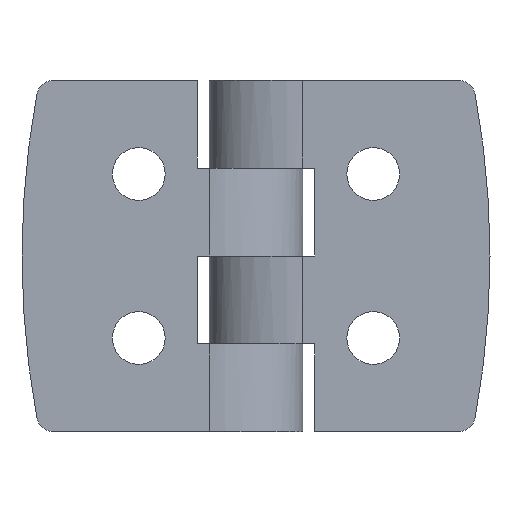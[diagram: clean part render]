
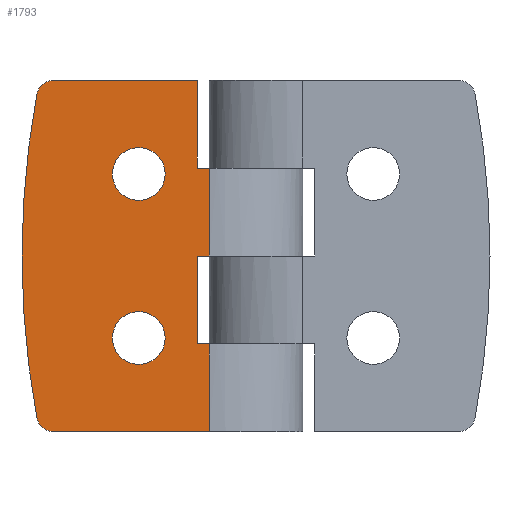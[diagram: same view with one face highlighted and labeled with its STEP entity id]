
A CAD part, front view. The second image highlights one B-rep face of the part: STEP entity #1793.
In plain terms, the highlighted planar face has unit normal (0, -1, 0).
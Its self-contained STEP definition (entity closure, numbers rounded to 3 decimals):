
#29 = ORIENTED_EDGE ( 'NONE', *, *, #1717, .T. ) ;
#30 = VERTEX_POINT ( 'NONE', #1190 ) ;
#31 = CARTESIAN_POINT ( 'NONE',  ( -5.426, -2.926, 37. ) ) ;
#49 = EDGE_CURVE ( 'NONE', #2019, #218, #2261, .T. ) ;
#56 = AXIS2_PLACEMENT_3D ( 'NONE', #1628, #1399, #1166 ) ;
#73 = CARTESIAN_POINT ( 'NONE',  ( -3.176, -2.926, 23. ) ) ;
#115 = CARTESIAN_POINT ( 'NONE',  ( 0.605, -2.926, 37.5 ) ) ;
#135 = VECTOR ( 'NONE', #1605, 1000. ) ;
#147 = CARTESIAN_POINT ( 'NONE',  ( 0.605, -2.926, 37.5 ) ) ;
#158 = ORIENTED_EDGE ( 'NONE', *, *, #512, .T. ) ;
#172 = AXIS2_PLACEMENT_3D ( 'NONE', #492, #1810, #1579 ) ;
#179 = DIRECTION ( 'NONE',  ( 1., 0., 0. ) ) ;
#199 = CIRCLE ( 'NONE', #2179, 2.25 ) ;
#215 = CIRCLE ( 'NONE', #1732, 75.75 ) ;
#218 = VERTEX_POINT ( 'NONE', #355 ) ;
#270 = LINE ( 'NONE', #1595, #2222 ) ;
#272 = EDGE_CURVE ( 'NONE', #2150, #466, #2214, .T. ) ;
#296 = DIRECTION ( 'NONE',  ( -1., 0., 0. ) ) ;
#355 = CARTESIAN_POINT ( 'NONE',  ( -7.676, -2.926, 37. ) ) ;
#373 = ORIENTED_EDGE ( 'NONE', *, *, #2030, .T. ) ;
#378 = LINE ( 'NONE', #147, #693 ) ;
#388 = VECTOR ( 'NONE', #179, 1000. ) ;
#410 = ORIENTED_EDGE ( 'NONE', *, *, #1347, .T. ) ;
#417 = CARTESIAN_POINT ( 'NONE',  ( 0.605, -2.926, 45. ) ) ;
#466 = VERTEX_POINT ( 'NONE', #1375 ) ;
#483 = ORIENTED_EDGE ( 'NONE', *, *, #1802, .F. ) ;
#492 = CARTESIAN_POINT ( 'NONE',  ( -12.657, -2.926, 16.5 ) ) ;
#506 = ORIENTED_EDGE ( 'NONE', *, *, #1104, .T. ) ;
#512 = EDGE_CURVE ( 'NONE', #218, #2019, #199, .T. ) ;
#524 = CARTESIAN_POINT ( 'NONE',  ( 0.605, -2.926, 22.5 ) ) ;
#528 = DIRECTION ( 'NONE',  ( 0., 1., 0. ) ) ;
#535 = DIRECTION ( 'NONE',  ( -1., 0., 0. ) ) ;
#547 = VERTEX_POINT ( 'NONE', #579 ) ;
#579 = CARTESIAN_POINT ( 'NONE',  ( -0.426, -2.926, 22.5 ) ) ;
#609 = EDGE_CURVE ( 'NONE', #629, #1332, #643, .T. ) ;
#612 = AXIS2_PLACEMENT_3D ( 'NONE', #1451, #528, #296 ) ;
#629 = VERTEX_POINT ( 'NONE', #988 ) ;
#643 = LINE ( 'NONE', #417, #388 ) ;
#665 = ORIENTED_EDGE ( 'NONE', *, *, #2037, .T. ) ;
#687 = ORIENTED_EDGE ( 'NONE', *, *, #758, .F. ) ;
#693 = VECTOR ( 'NONE', #2170, 1000. ) ;
#694 = ORIENTED_EDGE ( 'NONE', *, *, #864, .T. ) ;
#718 = DIRECTION ( 'NONE',  ( 1., 0., 0. ) ) ;
#737 = CARTESIAN_POINT ( 'NONE',  ( -0.426, -2.926, 30. ) ) ;
#752 = CARTESIAN_POINT ( 'NONE',  ( -12.657, -2.926, 15. ) ) ;
#758 = EDGE_CURVE ( 'NONE', #838, #858, #1234, .T. ) ;
#761 = DIRECTION ( 'NONE',  ( 0., 1., 0. ) ) ;
#776 = DIRECTION ( 'NONE',  ( 0., 0., -1. ) ) ;
#838 = VERTEX_POINT ( 'NONE', #115 ) ;
#858 = VERTEX_POINT ( 'NONE', #977 ) ;
#861 = VERTEX_POINT ( 'NONE', #752 ) ;
#864 = EDGE_CURVE ( 'NONE', #1314, #1885, #2109, .T. ) ;
#867 = DIRECTION ( 'NONE',  ( -1., 0., 0. ) ) ;
#868 = ORIENTED_EDGE ( 'NONE', *, *, #1762, .F. ) ;
#901 = CIRCLE ( 'NONE', #1582, 1.5 ) ;
#946 = CARTESIAN_POINT ( 'NONE',  ( 0.605, -2.926, 30. ) ) ;
#969 = VECTOR ( 'NONE', #1745, 1000. ) ;
#970 = ORIENTED_EDGE ( 'NONE', *, *, #272, .F. ) ;
#977 = CARTESIAN_POINT ( 'NONE',  ( 0.605, -2.926, 30. ) ) ;
#986 = CARTESIAN_POINT ( 'NONE',  ( 0.605, -2.926, 45. ) ) ;
#988 = CARTESIAN_POINT ( 'NONE',  ( -12.657, -2.926, 45. ) ) ;
#1003 = CARTESIAN_POINT ( 'NONE',  ( 0.605, -2.926, 45. ) ) ;
#1026 = EDGE_CURVE ( 'NONE', #861, #466, #2223, .T. ) ;
#1085 = CARTESIAN_POINT ( 'NONE',  ( -5.426, -2.926, 37. ) ) ;
#1100 = DIRECTION ( 'NONE',  ( 0., -1., 0. ) ) ;
#1104 = EDGE_CURVE ( 'NONE', #1548, #1332, #270, .T. ) ;
#1135 = ORIENTED_EDGE ( 'NONE', *, *, #609, .F. ) ;
#1150 = DIRECTION ( 'NONE',  ( -1., 0., 0. ) ) ;
#1155 = ORIENTED_EDGE ( 'NONE', *, *, #1422, .T. ) ;
#1159 = CIRCLE ( 'NONE', #172, 1.5 ) ;
#1166 = DIRECTION ( 'NONE',  ( -1., 0., 0. ) ) ;
#1174 = CARTESIAN_POINT ( 'NONE',  ( -0.426, -2.926, 45. ) ) ;
#1183 = LINE ( 'NONE', #946, #1976 ) ;
#1190 = CARTESIAN_POINT ( 'NONE',  ( -14.132, -2.926, 16.227 ) ) ;
#1197 = DIRECTION ( 'NONE',  ( -1., 0., 0. ) ) ;
#1206 = LINE ( 'NONE', #1385, #1614 ) ;
#1218 = PLANE ( 'NONE',  #1848 ) ;
#1234 = LINE ( 'NONE', #1003, #1546 ) ;
#1250 = CIRCLE ( 'NONE', #56, 75.75 ) ;
#1255 = CIRCLE ( 'NONE', #2089, 2.25 ) ;
#1314 = VERTEX_POINT ( 'NONE', #73 ) ;
#1332 = VERTEX_POINT ( 'NONE', #1174 ) ;
#1337 = CARTESIAN_POINT ( 'NONE',  ( -12.657, -2.926, 43.5 ) ) ;
#1347 = EDGE_CURVE ( 'NONE', #30, #861, #1159, .T. ) ;
#1363 = DIRECTION ( 'NONE',  ( 0., 0., 1. ) ) ;
#1375 = CARTESIAN_POINT ( 'NONE',  ( 0.605, -2.926, 15. ) ) ;
#1385 = CARTESIAN_POINT ( 'NONE',  ( 0.605, -2.926, 22.5 ) ) ;
#1399 = DIRECTION ( 'NONE',  ( 0., 1., 0. ) ) ;
#1422 = EDGE_CURVE ( 'NONE', #838, #1548, #378, .T. ) ;
#1435 = DIRECTION ( 'NONE',  ( 0., 1., 0. ) ) ;
#1451 = CARTESIAN_POINT ( 'NONE',  ( -5.426, -2.926, 23. ) ) ;
#1482 = ORIENTED_EDGE ( 'NONE', *, *, #49, .T. ) ;
#1519 = EDGE_CURVE ( 'NONE', #2035, #858, #1183, .T. ) ;
#1537 = DIRECTION ( 'NONE',  ( 1., 0., 0. ) ) ;
#1546 = VECTOR ( 'NONE', #776, 1000. ) ;
#1548 = VERTEX_POINT ( 'NONE', #1996 ) ;
#1565 = DIRECTION ( 'NONE',  ( -1., 0., 0. ) ) ;
#1579 = DIRECTION ( 'NONE',  ( -1., 0., 0. ) ) ;
#1582 = AXIS2_PLACEMENT_3D ( 'NONE', #1337, #1100, #867 ) ;
#1595 = CARTESIAN_POINT ( 'NONE',  ( -0.426, -2.926, 45. ) ) ;
#1605 = DIRECTION ( 'NONE',  ( 0., 0., 1. ) ) ;
#1614 = VECTOR ( 'NONE', #1150, 1000. ) ;
#1628 = CARTESIAN_POINT ( 'NONE',  ( 60.355, -2.926, 30. ) ) ;
#1638 = VECTOR ( 'NONE', #1537, 1000. ) ;
#1670 = EDGE_LOOP ( 'NONE', ( #373, #694 ) ) ;
#1699 = AXIS2_PLACEMENT_3D ( 'NONE', #31, #2060, #1828 ) ;
#1706 = VERTEX_POINT ( 'NONE', #1843 ) ;
#1717 = EDGE_CURVE ( 'NONE', #2150, #547, #1206, .T. ) ;
#1732 = AXIS2_PLACEMENT_3D ( 'NONE', #2253, #1791, #1565 ) ;
#1741 = EDGE_LOOP ( 'NONE', ( #868, #410, #2237, #970, #29, #665, #1803, #687, #1155, #506, #1135, #1815, #483 ) ) ;
#1745 = DIRECTION ( 'NONE',  ( 0., 0., -1. ) ) ;
#1754 = CARTESIAN_POINT ( 'NONE',  ( -7.676, -2.926, 23. ) ) ;
#1756 = CARTESIAN_POINT ( 'NONE',  ( 0.605, -2.926, 15. ) ) ;
#1762 = EDGE_CURVE ( 'NONE', #30, #2078, #215, .T. ) ;
#1790 = FACE_BOUND ( 'NONE', #2012, .T. ) ;
#1791 = DIRECTION ( 'NONE',  ( 0., 1., 0. ) ) ;
#1793 = ADVANCED_FACE ( 'NONE', ( #1790, #2143, #2258 ), #1218, .F. ) ;
#1802 = EDGE_CURVE ( 'NONE', #2078, #1706, #1250, .T. ) ;
#1803 = ORIENTED_EDGE ( 'NONE', *, *, #1519, .T. ) ;
#1810 = DIRECTION ( 'NONE',  ( 0., -1., 0. ) ) ;
#1815 = ORIENTED_EDGE ( 'NONE', *, *, #2178, .T. ) ;
#1828 = DIRECTION ( 'NONE',  ( -1., 0., 0. ) ) ;
#1835 = CARTESIAN_POINT ( 'NONE',  ( -0.426, -2.926, 45. ) ) ;
#1843 = CARTESIAN_POINT ( 'NONE',  ( -14.132, -2.926, 43.773 ) ) ;
#1848 = AXIS2_PLACEMENT_3D ( 'NONE', #986, #761, #535 ) ;
#1885 = VERTEX_POINT ( 'NONE', #1754 ) ;
#1890 = CARTESIAN_POINT ( 'NONE',  ( -3.176, -2.926, 37. ) ) ;
#1953 = DIRECTION ( 'NONE',  ( -1., 0., 0. ) ) ;
#1976 = VECTOR ( 'NONE', #718, 1000. ) ;
#1978 = CARTESIAN_POINT ( 'NONE',  ( 0.605, -2.926, 45. ) ) ;
#1996 = CARTESIAN_POINT ( 'NONE',  ( -0.426, -2.926, 37.5 ) ) ;
#2011 = CARTESIAN_POINT ( 'NONE',  ( -15.395, -2.926, 30. ) ) ;
#2012 = EDGE_LOOP ( 'NONE', ( #158, #1482 ) ) ;
#2019 = VERTEX_POINT ( 'NONE', #1890 ) ;
#2030 = EDGE_CURVE ( 'NONE', #1885, #1314, #1255, .T. ) ;
#2035 = VERTEX_POINT ( 'NONE', #737 ) ;
#2037 = EDGE_CURVE ( 'NONE', #547, #2035, #2068, .T. ) ;
#2060 = DIRECTION ( 'NONE',  ( 0., 1., 0. ) ) ;
#2068 = LINE ( 'NONE', #1835, #135 ) ;
#2078 = VERTEX_POINT ( 'NONE', #2011 ) ;
#2089 = AXIS2_PLACEMENT_3D ( 'NONE', #2125, #1435, #1197 ) ;
#2109 = CIRCLE ( 'NONE', #612, 2.25 ) ;
#2125 = CARTESIAN_POINT ( 'NONE',  ( -5.426, -2.926, 23. ) ) ;
#2143 = FACE_BOUND ( 'NONE', #1670, .T. ) ;
#2150 = VERTEX_POINT ( 'NONE', #524 ) ;
#2170 = DIRECTION ( 'NONE',  ( -1., 0., 0. ) ) ;
#2178 = EDGE_CURVE ( 'NONE', #629, #1706, #901, .T. ) ;
#2179 = AXIS2_PLACEMENT_3D ( 'NONE', #1085, #2189, #1953 ) ;
#2189 = DIRECTION ( 'NONE',  ( 0., 1., 0. ) ) ;
#2214 = LINE ( 'NONE', #1978, #969 ) ;
#2222 = VECTOR ( 'NONE', #1363, 1000. ) ;
#2223 = LINE ( 'NONE', #1756, #1638 ) ;
#2237 = ORIENTED_EDGE ( 'NONE', *, *, #1026, .T. ) ;
#2253 = CARTESIAN_POINT ( 'NONE',  ( 60.355, -2.926, 30. ) ) ;
#2258 = FACE_OUTER_BOUND ( 'NONE', #1741, .T. ) ;
#2261 = CIRCLE ( 'NONE', #1699, 2.25 ) ;
